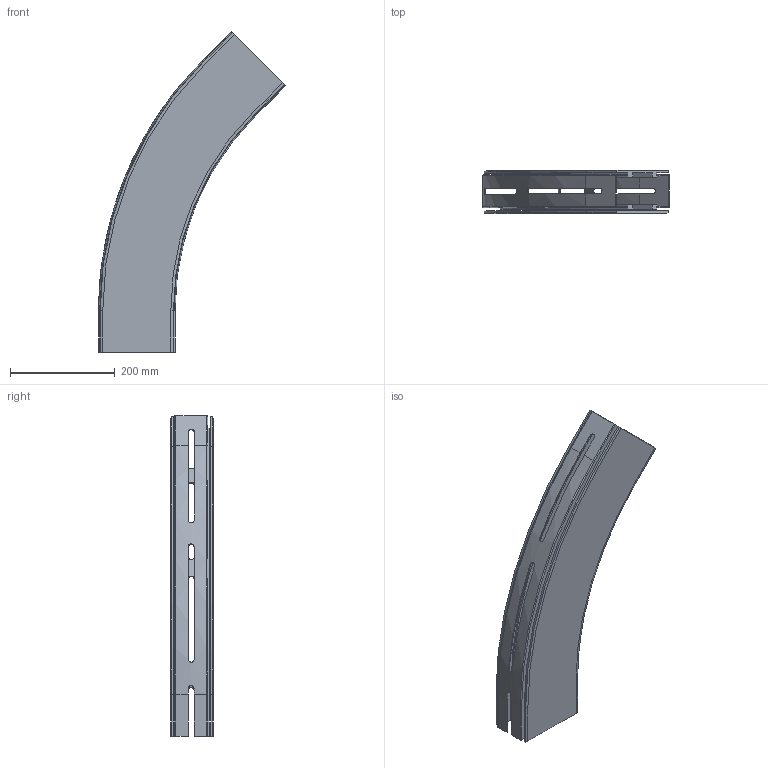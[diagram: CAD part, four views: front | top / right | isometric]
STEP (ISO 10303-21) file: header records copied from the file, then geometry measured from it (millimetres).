
FILE_DESCRIPTION(/* description */ ('GLIDKURVA SERIE 540'),/* implementation_level */ '2;1');
FILE_NAME(/* name */ '540-5375+140-2000-01.stp',/* time_stamp */ '2022-09-21T09:03:44+02:00',/* author */ ('Mathias.Dore'),/* organization */ ('CARRYLINE'),/* preprocessor_version */ 'ST-DEVELOPER v19.2',/* originating_system */ 'Autodesk Inventor 2023',/* authorisation */ '');
FILE_SCHEMA (('AUTOMOTIVE_DESIGN { 1 0 10303 214 3 1 1 }'));
Length unit declared in the file: millimetre
Products named in the file (1): 540-5375+140-2000-01
Bounding box: 356.92 x 82 x 612.45 mm (x, y, z)
Volume: 1426016.5 mm3; surface area: 735656.1 mm2
Topology: 2 solids, 2 shells, 171 faces, 482 edges, 316 vertices
Faces by surface type: plane 111, cylinder 30, bspline 22, cone 4, torus 4
Entity records: 6093 total; most frequent: CARTESIAN_POINT 1620, ORIENTED_EDGE 964, DIRECTION 830, EDGE_CURVE 482, LINE 346, VECTOR 346, VERTEX_POINT 316, AXIS2_PLACEMENT_3D 242
